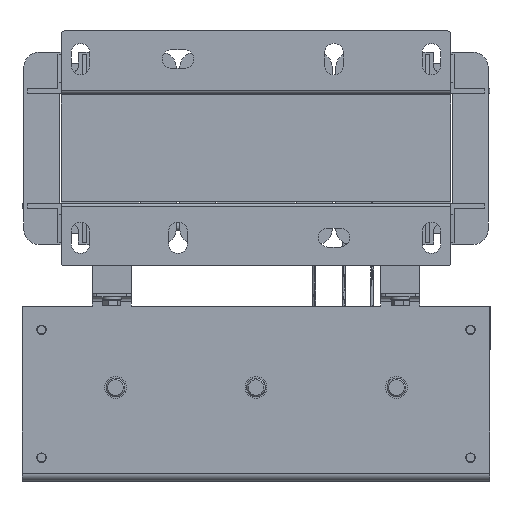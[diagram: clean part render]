
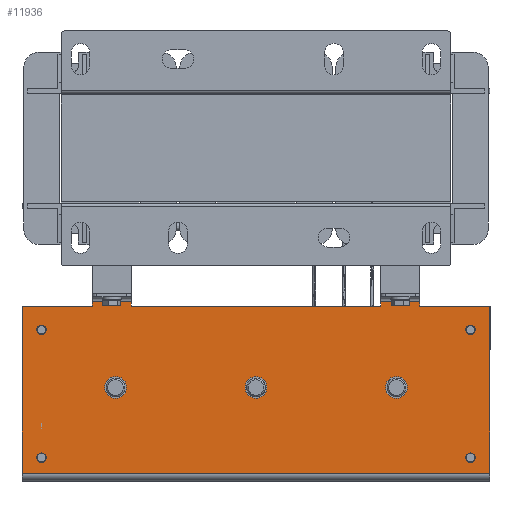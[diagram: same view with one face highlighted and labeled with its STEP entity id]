
A CAD part, front view. The second image highlights one B-rep face of the part: STEP entity #11936.
In plain terms, the highlighted planar face has unit normal (0, -1, 0).
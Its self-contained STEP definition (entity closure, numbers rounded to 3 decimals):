
#11936=ADVANCED_FACE('',(#26490,#26492,#26494,#26496,#26498,#26500,#26502,#26504),
#26506,.F.);
#26490=FACE_BOUND('',#26491,.T.);
#26491=EDGE_LOOP('',(#46526,#46527,#46528,#46529,#46530,#46531,#46532,#46533,#46534,
#46535,#46536,#46537));
#26492=FACE_BOUND('',#26493,.T.);
#26493=EDGE_LOOP('',(#46538));
#26494=FACE_BOUND('',#26495,.T.);
#26495=EDGE_LOOP('',(#46539));
#26496=FACE_BOUND('',#26497,.T.);
#26497=EDGE_LOOP('',(#46540));
#26498=FACE_BOUND('',#26499,.T.);
#26499=EDGE_LOOP('',(#46541));
#26500=FACE_BOUND('',#26501,.T.);
#26501=EDGE_LOOP('',(#46542));
#26502=FACE_BOUND('',#26503,.T.);
#26503=EDGE_LOOP('',(#46543));
#26504=FACE_BOUND('',#26505,.T.);
#26505=EDGE_LOOP('',(#46544));
#26506=PLANE('',#26507);
#26507=AXIS2_PLACEMENT_3D('',#26508,#26509,#26510);
#26508=CARTESIAN_POINT('',(-116.,-35.,150.));
#26509=DIRECTION('',(0.,1.,0.));
#26510=DIRECTION('',(0.,0.,1.));
#46526=ORIENTED_EDGE('',*,*,#53600,.T.);
#46527=ORIENTED_EDGE('',*,*,#53601,.T.);
#46528=ORIENTED_EDGE('',*,*,#53602,.T.);
#46529=ORIENTED_EDGE('',*,*,#53603,.F.);
#46530=ORIENTED_EDGE('',*,*,#53604,.T.);
#46531=ORIENTED_EDGE('',*,*,#53605,.T.);
#46532=ORIENTED_EDGE('',*,*,#53606,.T.);
#46533=ORIENTED_EDGE('',*,*,#53607,.F.);
#46534=ORIENTED_EDGE('',*,*,#53527,.T.);
#46535=ORIENTED_EDGE('',*,*,#53608,.T.);
#46536=ORIENTED_EDGE('',*,*,#53513,.F.);
#46537=ORIENTED_EDGE('',*,*,#53609,.F.);
#46538=ORIENTED_EDGE('',*,*,#53452,.T.);
#46539=ORIENTED_EDGE('',*,*,#53454,.T.);
#46540=ORIENTED_EDGE('',*,*,#53456,.T.);
#46541=ORIENTED_EDGE('',*,*,#53458,.T.);
#46542=ORIENTED_EDGE('',*,*,#53460,.T.);
#46543=ORIENTED_EDGE('',*,*,#53462,.T.);
#46544=ORIENTED_EDGE('',*,*,#53464,.T.);
#53452=EDGE_CURVE('',#58888,#58888,#58889,.T.);
#53454=EDGE_CURVE('',#58892,#58892,#58893,.T.);
#53456=EDGE_CURVE('',#58896,#58896,#58897,.T.);
#53458=EDGE_CURVE('',#58900,#58900,#58901,.T.);
#53460=EDGE_CURVE('',#58904,#58904,#58905,.T.);
#53462=EDGE_CURVE('',#58908,#58908,#58909,.T.);
#53464=EDGE_CURVE('',#58912,#58912,#58913,.T.);
#53513=EDGE_CURVE('',#59004,#59005,#59006,.T.);
#53527=EDGE_CURVE('',#59033,#59031,#59034,.T.);
#53600=EDGE_CURVE('',#59161,#59162,#59163,.T.);
#53601=EDGE_CURVE('',#59162,#59164,#59165,.T.);
#53602=EDGE_CURVE('',#59164,#59166,#59167,.T.);
#53603=EDGE_CURVE('',#59168,#59166,#59169,.T.);
#53604=EDGE_CURVE('',#59168,#59170,#59171,.T.);
#53605=EDGE_CURVE('',#59170,#59172,#59173,.T.);
#53606=EDGE_CURVE('',#59172,#59174,#59175,.T.);
#53607=EDGE_CURVE('',#59033,#59174,#59176,.T.);
#53608=EDGE_CURVE('',#59031,#59005,#59177,.T.);
#53609=EDGE_CURVE('',#59161,#59004,#59178,.T.);
#58888=VERTEX_POINT('',#70636);
#58889=CIRCLE('',#70637,3.);
#58892=VERTEX_POINT('',#70646);
#58893=CIRCLE('',#70647,3.);
#58896=VERTEX_POINT('',#70656);
#58897=CIRCLE('',#70657,3.);
#58900=VERTEX_POINT('',#70666);
#58901=CIRCLE('',#70667,3.);
#58904=VERTEX_POINT('',#70676);
#58905=CIRCLE('',#70677,7.);
#58908=VERTEX_POINT('',#70686);
#58909=CIRCLE('',#70687,7.);
#58912=VERTEX_POINT('',#70696);
#58913=CIRCLE('',#70697,7.);
#59004=VERTEX_POINT('',#70907);
#59005=VERTEX_POINT('',#70908);
#59006=LINE('',#70909,#70910);
#59031=VERTEX_POINT('',#70964);
#59033=VERTEX_POINT('',#70969);
#59034=LINE('',#70970,#70971);
#59161=VERTEX_POINT('',#71259);
#59162=VERTEX_POINT('',#71260);
#59163=LINE('',#71261,#71262);
#59164=VERTEX_POINT('',#71264);
#59165=LINE('',#71265,#71266);
#59166=VERTEX_POINT('',#71268);
#59167=LINE('',#71269,#71270);
#59168=VERTEX_POINT('',#71272);
#59169=LINE('',#71273,#71274);
#59170=VERTEX_POINT('',#71276);
#59171=LINE('',#71277,#71278);
#59172=VERTEX_POINT('',#71280);
#59173=LINE('',#71281,#71282);
#59174=VERTEX_POINT('',#71284);
#59175=LINE('',#71285,#71286);
#59176=LINE('',#71288,#71289);
#59177=LINE('',#71291,#71292);
#59178=LINE('',#71294,#71295);
#70636=CARTESIAN_POINT('',(-16.,-35.,-137.5));
#70637=AXIS2_PLACEMENT_3D('',#70638,#70639,#70640);
#70638=CARTESIAN_POINT('',(-13.,-35.,-137.5));
#70639=DIRECTION('',(0.,1.,0.));
#70640=DIRECTION('',(1.,0.,0.));
#70646=CARTESIAN_POINT('',(-98.,-35.,137.5));
#70647=AXIS2_PLACEMENT_3D('',#70648,#70649,#70650);
#70648=CARTESIAN_POINT('',(-95.,-35.,137.5));
#70649=DIRECTION('',(0.,1.,0.));
#70650=DIRECTION('',(1.,0.,0.));
#70656=CARTESIAN_POINT('',(-16.,-35.,137.5));
#70657=AXIS2_PLACEMENT_3D('',#70658,#70659,#70660);
#70658=CARTESIAN_POINT('',(-13.,-35.,137.5));
#70659=DIRECTION('',(0.,1.,0.));
#70660=DIRECTION('',(1.,0.,0.));
#70666=CARTESIAN_POINT('',(-98.,-35.,-137.5));
#70667=AXIS2_PLACEMENT_3D('',#70668,#70669,#70670);
#70668=CARTESIAN_POINT('',(-95.,-35.,-137.5));
#70669=DIRECTION('',(0.,1.,0.));
#70670=DIRECTION('',(1.,0.,0.));
#70676=CARTESIAN_POINT('',(-58.,-35.,97.));
#70677=AXIS2_PLACEMENT_3D('',#70678,#70679,#70680);
#70678=CARTESIAN_POINT('',(-58.,-35.,90.));
#70679=DIRECTION('',(0.,1.,0.));
#70680=DIRECTION('',(0.,0.,-1.));
#70686=CARTESIAN_POINT('',(-58.,-35.,-83.));
#70687=AXIS2_PLACEMENT_3D('',#70688,#70689,#70690);
#70688=CARTESIAN_POINT('',(-58.,-35.,-90.));
#70689=DIRECTION('',(0.,1.,0.));
#70690=DIRECTION('',(0.,0.,-1.));
#70696=CARTESIAN_POINT('',(-58.,-35.,7.));
#70697=AXIS2_PLACEMENT_3D('',#70698,#70699,#70700);
#70698=CARTESIAN_POINT('',(-58.,-35.,0.));
#70699=DIRECTION('',(0.,1.,0.));
#70700=DIRECTION('',(0.,0.,-1.));
#70907=CARTESIAN_POINT('',(-110.,-35.,150.));
#70908=CARTESIAN_POINT('',(-3.,-35.,150.));
#70909=CARTESIAN_POINT('',(-110.,-35.,150.));
#70910=VECTOR('',#70911,1.);
#70911=DIRECTION('',(1.,0.,0.));
#70964=CARTESIAN_POINT('',(-3.,-35.,-150.));
#70969=CARTESIAN_POINT('',(-110.,-35.,-150.));
#70970=CARTESIAN_POINT('',(-110.,-35.,-150.));
#70971=VECTOR('',#70972,1.);
#70972=DIRECTION('',(1.,0.,0.));
#71259=CARTESIAN_POINT('',(-110.,-35.,105.));
#71260=CARTESIAN_POINT('',(-113.,-35.,105.));
#71261=CARTESIAN_POINT('',(-110.,-35.,105.));
#71262=VECTOR('',#71263,1.);
#71263=DIRECTION('',(-1.,0.,0.));
#71264=CARTESIAN_POINT('',(-113.,-35.,80.));
#71265=CARTESIAN_POINT('',(-113.,-35.,105.));
#71266=VECTOR('',#71267,1.);
#71267=DIRECTION('',(0.,0.,-1.));
#71268=CARTESIAN_POINT('',(-110.,-35.,80.));
#71269=CARTESIAN_POINT('',(-113.,-35.,80.));
#71270=VECTOR('',#71271,1.);
#71271=DIRECTION('',(1.,0.,0.));
#71272=CARTESIAN_POINT('',(-110.,-35.,-80.));
#71273=CARTESIAN_POINT('',(-110.,-35.,-80.));
#71274=VECTOR('',#71275,1.);
#71275=DIRECTION('',(0.,0.,1.));
#71276=CARTESIAN_POINT('',(-113.,-35.,-80.));
#71277=CARTESIAN_POINT('',(-110.,-35.,-80.));
#71278=VECTOR('',#71279,1.);
#71279=DIRECTION('',(-1.,0.,0.));
#71280=CARTESIAN_POINT('',(-113.,-35.,-105.));
#71281=CARTESIAN_POINT('',(-113.,-35.,-80.));
#71282=VECTOR('',#71283,1.);
#71283=DIRECTION('',(0.,0.,-1.));
#71284=CARTESIAN_POINT('',(-110.,-35.,-105.));
#71285=CARTESIAN_POINT('',(-113.,-35.,-105.));
#71286=VECTOR('',#71287,1.);
#71287=DIRECTION('',(1.,0.,0.));
#71288=CARTESIAN_POINT('',(-110.,-35.,-150.));
#71289=VECTOR('',#71290,1.);
#71290=DIRECTION('',(0.,0.,1.));
#71291=CARTESIAN_POINT('',(-3.,-35.,-150.));
#71292=VECTOR('',#71293,1.);
#71293=DIRECTION('',(0.,0.,1.));
#71294=CARTESIAN_POINT('',(-110.,-35.,105.));
#71295=VECTOR('',#71296,1.);
#71296=DIRECTION('',(0.,0.,1.));
